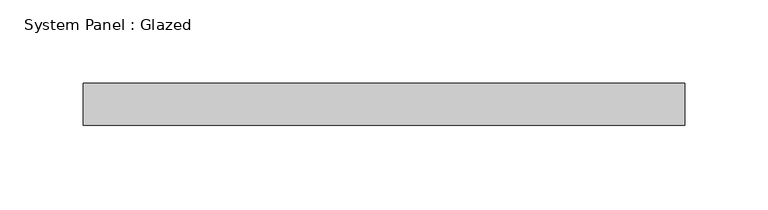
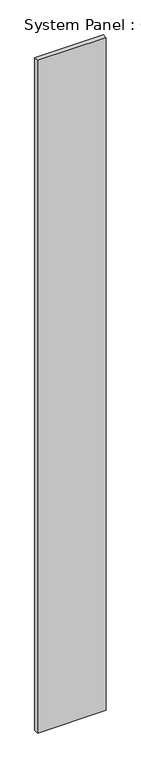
"""IFC4 building model written with IfcOpenShell, lengths in millimetres: plate geometry, System Panel : Glazed."""

import ifcopenshell
import ifcopenshell.guid

model = None  # the IFC model being written
_history = None  # IfcOwnerHistory: only IFC2X3 demands one
_inside = {}  # id of a spatial element -> (the spatial element, [elements in it])
_under = {}  # id of a project, library or spatial element -> (it, [spatial elements below it])
_declared = {}  # id of a project -> (the project, [libraries it declares])
_typed = {}  # id of a type object -> (the type object, [elements of that type])
_made_of = {}  # id of a material, layer set ... -> (it, [elements and type objects made of it])


def new_model(schema):
    """Start an empty IFC model of exactly this schema.

    Asked for "IFC4X3", IfcOpenShell would pick the latest addendum, in which some entities
    have other attributes; the version numbers below select the first issue.
    IFC2X3 requires an IfcOwnerHistory on every rooted entity: one is made here for all.
    """
    global model, _history
    if schema == "IFC4X3":
        model = ifcopenshell.file(schema_version=(4, 3, 0, 0))
    else:
        model = ifcopenshell.file(schema=schema)
    _inside.clear()
    _under.clear()
    _declared.clear()
    _typed.clear()
    _made_of.clear()
    _history = None
    if model.schema == "IFC2X3":
        org = make("IfcOrganization", Name="unknown")
        user = make(
            "IfcPersonAndOrganization",
            ThePerson=make("IfcPerson", FamilyName="unknown"),
            TheOrganization=org,
        )
        app = make(
            "IfcApplication",
            ApplicationDeveloper=org,
            Version="unknown",
            ApplicationFullName="unknown",
            ApplicationIdentifier="unknown",
        )
        _history = make(
            "IfcOwnerHistory",
            OwningUser=user,
            OwningApplication=app,
            ChangeAction="ADDED",
            CreationDate=0,
        )
    return model


def make(cls, **values):
    """One entity of the class cls with the attributes given. An attribute that is None is left unset."""
    return model.create_entity(
        cls, **{name: value for name, value in values.items() if value is not None}
    )


def rooted(cls, **values):
    """An entity with a GlobalId (a new one), such as an element, a storey or a relation."""
    return make(cls, GlobalId=ifcopenshell.guid.new(), OwnerHistory=_history, **values)


def si_unit(unit_type, name, prefix=None):
    """IfcSIUnit, for example si_unit("LENGTHUNIT", "METRE", prefix="MILLI")."""
    return make("IfcSIUnit", UnitType=unit_type, Prefix=prefix, Name=name)


def assignment(units):
    """IfcUnitAssignment: the units of a project."""
    return None if units is None else make("IfcUnitAssignment", Units=units)


def point(xyz):
    """IfcCartesianPoint."""
    return None if xyz is None else make("IfcCartesianPoint", Coordinates=xyz)


def direction(xyz):
    """IfcDirection."""
    return None if xyz is None else make("IfcDirection", DirectionRatios=xyz)


def frame(location, z_axis=None, x_axis=None):
    """IfcAxis2Placement3D, a coordinate frame: its origin and axes. An axis left out is left unset."""
    return make(
        "IfcAxis2Placement3D",
        Location=point(location),
        Axis=direction(z_axis),
        RefDirection=direction(x_axis),
    )


def origin():
    """The frame at (0, 0, 0) with its axes left unset."""
    return frame((0.0, 0.0, 0.0))


def origin_with_axes():
    """The frame at (0, 0, 0) with the z axis (0, 0, 1) and the x axis (1, 0, 0) written out."""
    return frame((0.0, 0.0, 0.0), z_axis=(0.0, 0.0, 1.0), x_axis=(1.0, 0.0, 0.0))


def place(relative_to, where):
    """IfcLocalPlacement: puts the frame where relative to a parent placement (None: the world)."""
    return make(
        "IfcLocalPlacement", PlacementRelTo=relative_to, RelativePlacement=where
    )


def context(
    kind, dimensions, precision=None, world=None, true_north=None, identifier=None
):
    """IfcGeometricRepresentationContext, for example the 3D "Model" context."""
    return make(
        "IfcGeometricRepresentationContext",
        ContextIdentifier=identifier,
        ContextType=kind,
        CoordinateSpaceDimension=dimensions,
        Precision=precision,
        WorldCoordinateSystem=world,
        TrueNorth=true_north,
    )


def project(units=None, contexts=None):
    """IfcProject with its units and contexts."""
    return rooted(
        "IfcProject",
        Name="project",
        RepresentationContexts=contexts,
        UnitsInContext=assignment(units),
    )


def spatial(cls, under=None, at=None, **own):
    """A site, building, storey or space (cls), placed at a placement, below another one or the project."""
    s = rooted(cls, ObjectPlacement=at, **own)
    if under is not None:
        _under.setdefault(under.id(), (under, []))[1].append(s)
    return s


def polyline(points):
    """IfcPolyline through the points."""
    return make("IfcPolyline", Points=[point(p) for p in points])


def outline(outer, holes=None, kind="AREA"):
    """IfcArbitraryClosedProfileDef: a profile drawn as a closed curve; with holes, ...WithVoids."""
    if holes is None:
        return make("IfcArbitraryClosedProfileDef", ProfileType=kind, OuterCurve=outer)
    return make(
        "IfcArbitraryProfileDefWithVoids",
        ProfileType=kind,
        OuterCurve=outer,
        InnerCurves=holes,
    )


def extrude(swept, where, along, depth):
    """IfcExtrudedAreaSolid: the profile swept, set in the frame where, extruded along a direction by depth."""
    return make(
        "IfcExtrudedAreaSolid",
        SweptArea=swept,
        Position=where,
        ExtrudedDirection=direction(along),
        Depth=depth,
    )


def shape(context_of_items, identifier, shape_type, items):
    """IfcShapeRepresentation: the items that make up one representation, for example the "Body"."""
    return make(
        "IfcShapeRepresentation",
        ContextOfItems=context_of_items,
        RepresentationIdentifier=identifier,
        RepresentationType=shape_type,
        Items=items,
    )


def source(mapping_origin, context_of_items, identifier, shape_type, items):
    """IfcRepresentationMap: a shape defined once, which mapped items show again and again."""
    return make(
        "IfcRepresentationMap",
        MappingOrigin=mapping_origin,
        MappedRepresentation=shape(context_of_items, identifier, shape_type, items),
    )


def transform(
    local_origin,
    x_axis=None,
    y_axis=None,
    z_axis=None,
    scale=None,
    scale2=None,
    scale3=None,
    uniform=True,
):
    """IfcCartesianTransformationOperator3D, or its non-uniform kind. x_axis, y_axis, z_axis: its Axis1, 2, 3."""
    if uniform:
        return make(
            "IfcCartesianTransformationOperator3D",
            Axis1=direction(x_axis),
            Axis2=direction(y_axis),
            LocalOrigin=point(local_origin),
            Scale=scale,
            Axis3=direction(z_axis),
        )
    return make(
        "IfcCartesianTransformationOperator3DnonUniform",
        Axis1=direction(x_axis),
        Axis2=direction(y_axis),
        LocalOrigin=point(local_origin),
        Scale=scale,
        Axis3=direction(z_axis),
        Scale2=scale2,
        Scale3=scale3,
    )


def mapped(mapping_source, mapping_target):
    """IfcMappedItem: shows the shape of a source again, moved by a transform."""
    return make(
        "IfcMappedItem", MappingSource=mapping_source, MappingTarget=mapping_target
    )


def made_of(thing, what):
    """Note that an element or type object is made of a material, layer set ...; save() writes the relation."""
    if what is not None:
        _made_of.setdefault(what.id(), (what, []))[1].append(thing)
    return thing


def element(
    cls,
    number,
    at=None,
    inside=None,
    cuts=None,
    type_object=None,
    material=None,
    context=None,
    identifier="Body",
    shape_type=None,
    held_by="IfcProductDefinitionShape",
    body=None,
    shapes=None,
    **own,
):
    """One element of the class cls, such as IfcWall. Its Tag is "e" and its number.

    at: its placement. inside: the storey or other place that contains it. cuts: it is an
    opening in that element (IfcRelVoidsElement). A single representation is given by context,
    identifier, shape_type and body (its items); several are given by shapes. held_by: the class
    of the entity that holds the representations. save() writes the other relations.
    """
    e = rooted(cls, Tag="e%d" % number, ObjectPlacement=at, **own)
    if body is not None:
        shapes = [shape(context, identifier, shape_type, body)]
    if shapes is not None:
        e.Representation = make(held_by, Representations=shapes)
    if inside is not None:
        _inside.setdefault(inside.id(), (inside, []))[1].append(e)
    if cuts is not None:
        rooted(
            "IfcRelVoidsElement", RelatingBuildingElement=cuts, RelatedOpeningElement=e
        )
    if type_object is not None:
        _typed.setdefault(type_object.id(), (type_object, []))[1].append(e)
    return made_of(e, material)


def aggregate(whole, parts):
    """IfcRelAggregates: a whole, such as a stair, and the parts it consists of."""
    return rooted("IfcRelAggregates", RelatingObject=whole, RelatedObjects=parts)


def save(model, path):
    """Write the relations noted so far, then the file.

    IfcRelAggregates (storeys below a building ...), IfcRelContainedInSpatialStructure (elements
    in a storey), IfcRelDefinesByType, IfcRelAssociatesMaterial and IfcRelDeclares: one each for
    every whole, place, type object, material and project.
    """
    for whole, parts in _under.values():
        aggregate(whole, parts)
    for where, things in _inside.values():
        rooted(
            "IfcRelContainedInSpatialStructure",
            RelatedElements=things,
            RelatingStructure=where,
        )
    for kind, things in _typed.values():
        rooted("IfcRelDefinesByType", RelatedObjects=things, RelatingType=kind)
    for what, things in _made_of.values():
        rooted("IfcRelAssociatesMaterial", RelatedObjects=things, RelatingMaterial=what)
    for by, libraries in _declared.values():
        rooted("IfcRelDeclares", RelatingContext=by, RelatedDefinitions=libraries)
    model.write(path)


def system_panel_glazed_032e4dab(model_context):
    return source(origin(), model_context, "Body", "SweptSolid", [
        extrude(outline(polyline([(180.975, 19.05), (-180.975, 19.05), (-180.975, 44.45), (180.975, 44.45), (180.975, 19.05)])), origin_with_axes(), (0.0, 0.0, 1.0), 3746.5),
    ])


if __name__ == "__main__":
    model = new_model("IFC4")
    model_context = context("Model", 3, world=origin())
    ifc_project = project(units=[si_unit("LENGTHUNIT", "METRE", prefix="MILLI")], contexts=[model_context])
    site = spatial("IfcSite", under=ifc_project)
    building = spatial("IfcBuilding", under=site)
    placement = place(None, origin())
    system_panel_glazed_shape = system_panel_glazed_032e4dab(model_context)
    element("IfcPlate", 1, ObjectType="System Panel : Glazed", at=placement, inside=building, context=model_context, shape_type="MappedRepresentation", body=[
        mapped(system_panel_glazed_shape, transform((0.0, 0.0, 0.0), x_axis=(1.0, 0.0, 0.0), y_axis=(0.0, 1.0, 0.0), z_axis=(0.0, 0.0, 1.0))),
    ])
    save(model, "model.ifc")
